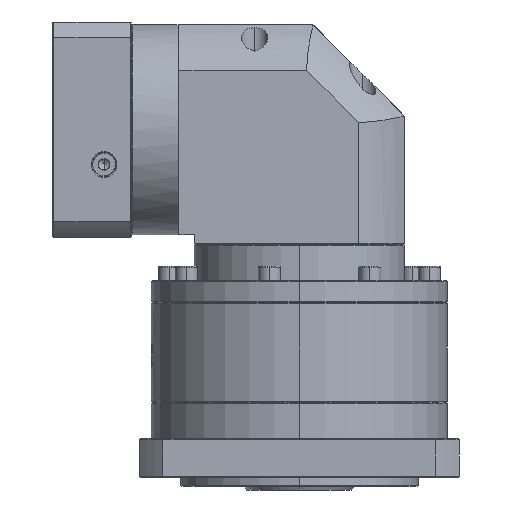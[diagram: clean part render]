
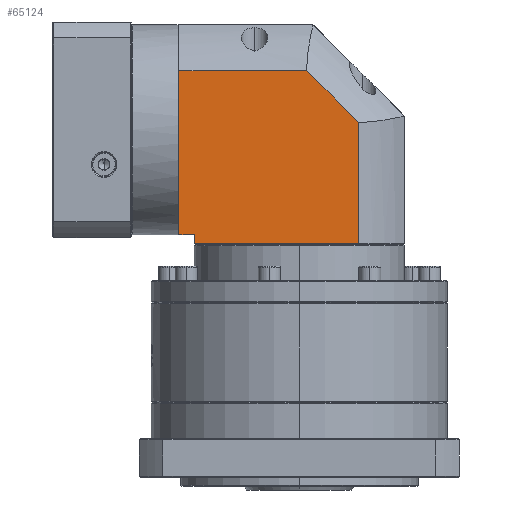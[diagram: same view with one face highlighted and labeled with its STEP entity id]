
A CAD part, left-side view. The second image highlights one B-rep face of the part: STEP entity #65124.
In plain terms, the highlighted planar face has unit normal (-1, 0, 0).
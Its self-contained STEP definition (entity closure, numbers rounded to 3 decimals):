
#2551 = VERTEX_POINT ( 'NONE', #29065 ) ;
#4226 = DIRECTION ( 'NONE',  ( 0., -1., 0. ) ) ;
#5431 = CARTESIAN_POINT ( 'NONE',  ( -164.154, 139.913, -77.574 ) ) ;
#7617 = CARTESIAN_POINT ( 'NONE',  ( -164.154, 78.351, 12.326 ) ) ;
#10992 = VERTEX_POINT ( 'NONE', #76621 ) ;
#11296 = DIRECTION ( 'NONE',  ( 0., -1., 0. ) ) ;
#16738 = DIRECTION ( 'NONE',  ( 0., 1., 0. ) ) ;
#19398 = EDGE_CURVE ( 'NONE', #73689, #47479, #72760, .T. ) ;
#24930 = DIRECTION ( 'NONE',  ( 1., 0., 0. ) ) ;
#26950 = EDGE_CURVE ( 'NONE', #2551, #73728, #134014, .T. ) ;
#27922 = DIRECTION ( 'NONE',  ( 0., -0.707, -0.707 ) ) ;
#28298 = CARTESIAN_POINT ( 'NONE',  ( -164.154, 24.913, -82.574 ) ) ;
#29065 = CARTESIAN_POINT ( 'NONE',  ( -164.154, 78.351, 12.326 ) ) ;
#30825 = VECTOR ( 'NONE', #82088, 1000. ) ;
#31446 = VECTOR ( 'NONE', #11296, 1000. ) ;
#37517 = EDGE_CURVE ( 'NONE', #114951, #10992, #83650, .T. ) ;
#41840 = ORIENTED_EDGE ( 'NONE', *, *, #26950, .F. ) ;
#47479 = VERTEX_POINT ( 'NONE', #103583 ) ;
#48049 = CARTESIAN_POINT ( 'NONE',  ( -164.154, 50.013, -89.074 ) ) ;
#54260 = EDGE_CURVE ( 'NONE', #73728, #73689, #113447, .T. ) ;
#54289 = EDGE_CURVE ( 'NONE', #111036, #47479, #130073, .T. ) ;
#56229 = CARTESIAN_POINT ( 'NONE',  ( -164.154, 148.313, -89.074 ) ) ;
#62359 = LINE ( 'NONE', #95697, #97073 ) ;
#63735 = EDGE_CURVE ( 'NONE', #114951, #111036, #87635, .T. ) ;
#65124 = ADVANCED_FACE ( 'NONE', ( #129714 ), #68813, .F. ) ;
#65682 = DIRECTION ( 'NONE',  ( 0., -1., 0. ) ) ;
#66348 = ORIENTED_EDGE ( 'NONE', *, *, #63735, .T. ) ;
#68813 = PLANE ( 'NONE',  #85898 ) ;
#71926 = ORIENTED_EDGE ( 'NONE', *, *, #37517, .F. ) ;
#72760 = LINE ( 'NONE', #28298, #90904 ) ;
#73689 = VERTEX_POINT ( 'NONE', #136863 ) ;
#73728 = VERTEX_POINT ( 'NONE', #83147 ) ;
#76621 = CARTESIAN_POINT ( 'NONE',  ( -164.154, 148.313, 12.326 ) ) ;
#80567 = EDGE_LOOP ( 'NONE', ( #110384, #41840, #113534, #71926, #66348, #86958, #89771 ) ) ;
#82088 = DIRECTION ( 'NONE',  ( 0., 0., -1. ) ) ;
#83147 = CARTESIAN_POINT ( 'NONE',  ( -164.154, 50.013, -16.013 ) ) ;
#83650 = LINE ( 'NONE', #56229, #125167 ) ;
#85898 = AXIS2_PLACEMENT_3D ( 'NONE', #130826, #24930, #4226 ) ;
#86958 = ORIENTED_EDGE ( 'NONE', *, *, #54289, .T. ) ;
#87635 = LINE ( 'NONE', #127334, #31446 ) ;
#89771 = ORIENTED_EDGE ( 'NONE', *, *, #19398, .F. ) ;
#90904 = VECTOR ( 'NONE', #16738, 1000. ) ;
#92300 = DIRECTION ( 'NONE',  ( 0., 0., -1. ) ) ;
#95697 = CARTESIAN_POINT ( 'NONE',  ( -164.154, 24.913, 12.326 ) ) ;
#97073 = VECTOR ( 'NONE', #65682, 1000. ) ;
#102481 = VECTOR ( 'NONE', #27922, 1000. ) ;
#103583 = CARTESIAN_POINT ( 'NONE',  ( -164.154, 139.913, -82.574 ) ) ;
#110351 = EDGE_CURVE ( 'NONE', #10992, #2551, #62359, .T. ) ;
#110384 = ORIENTED_EDGE ( 'NONE', *, *, #54260, .F. ) ;
#111036 = VERTEX_POINT ( 'NONE', #5431 ) ;
#113447 = LINE ( 'NONE', #48049, #126738 ) ;
#113534 = ORIENTED_EDGE ( 'NONE', *, *, #110351, .F. ) ;
#113538 = CARTESIAN_POINT ( 'NONE',  ( -164.154, 148.313, -77.574 ) ) ;
#114951 = VERTEX_POINT ( 'NONE', #113538 ) ;
#119559 = DIRECTION ( 'NONE',  ( 0., 0., 1. ) ) ;
#125167 = VECTOR ( 'NONE', #119559, 1000. ) ;
#125656 = CARTESIAN_POINT ( 'NONE',  ( -164.154, 139.913, 37.426 ) ) ;
#126738 = VECTOR ( 'NONE', #92300, 1000. ) ;
#127334 = CARTESIAN_POINT ( 'NONE',  ( -164.154, 139.913, -77.574 ) ) ;
#129714 = FACE_OUTER_BOUND ( 'NONE', #80567, .T. ) ;
#130073 = LINE ( 'NONE', #125656, #30825 ) ;
#130826 = CARTESIAN_POINT ( 'NONE',  ( -164.154, 24.913, -89.074 ) ) ;
#134014 = LINE ( 'NONE', #7617, #102481 ) ;
#136863 = CARTESIAN_POINT ( 'NONE',  ( -164.154, 50.013, -82.574 ) ) ;
